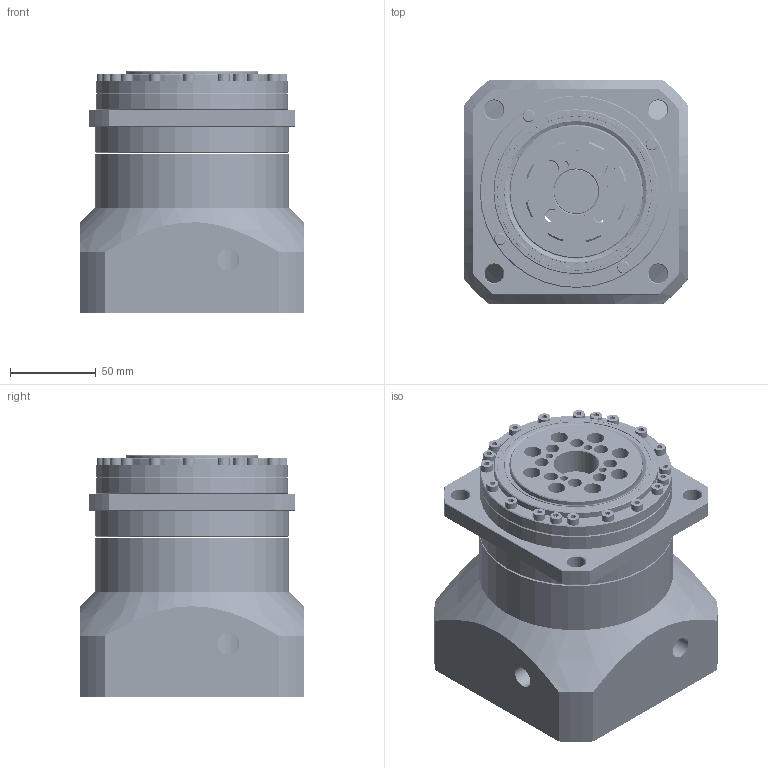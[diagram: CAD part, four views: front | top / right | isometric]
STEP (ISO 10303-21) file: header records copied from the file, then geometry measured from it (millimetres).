
FILE_DESCRIPTION (( 'STEP AP203' ), '1' );
FILE_NAME ('GNDU120L1-22-110-145-M8(20160802).STEP', '2016-08-02T03:32:54', ( 'user' ), ( '' ), 'SwSTEP 2.0', 'SolidWorks 2012', '' );
FILE_SCHEMA (( 'CONFIG_CONTROL_DESIGN' ));
Length unit declared in the file: millimetre
Products named in the file (1): GNDU120L1-22-110-145-M8(20160802)
Bounding box: 130 x 130 x 140.7 mm (x, y, z)
Volume: 1160644.4 mm3; surface area: 280721.4 mm2
Topology: 31 solids, 31 shells, 3933 faces, 8674 edges, 4889 vertices
Faces by surface type: cone 2526, plane 817, cylinder 530, torus 44, bspline 16
Entity records: 107749 total; most frequent: DIRECTION 19902, CARTESIAN_POINT 19644, ORIENTED_EDGE 17204, EDGE_CURVE 8602, AXIS2_PLACEMENT_3D 7565, VERTEX_POINT 4889, LINE 4772, VECTOR 4772
